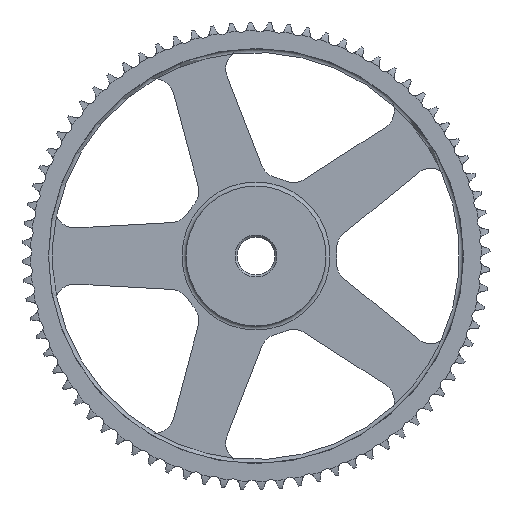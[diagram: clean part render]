
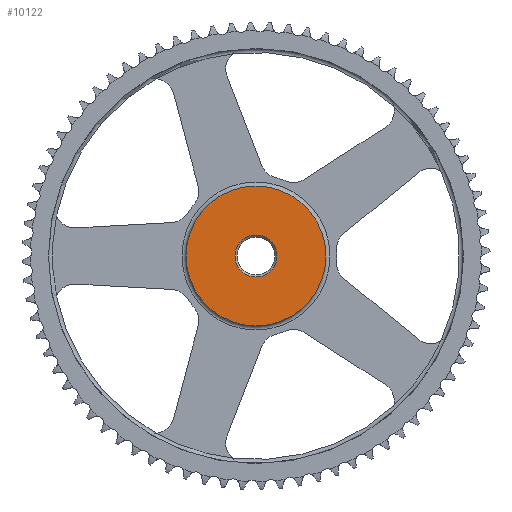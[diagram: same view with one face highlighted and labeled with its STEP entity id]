
A CAD part, left-side view. The second image highlights one B-rep face of the part: STEP entity #10122.
In plain terms, the highlighted planar face has unit normal (-1, 0, 0).
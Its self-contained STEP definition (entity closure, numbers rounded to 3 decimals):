
#36=FACE_BOUND('',#2319,.T.);
#1219=PLANE('',#11238);
#1757=FACE_OUTER_BOUND('',#2318,.T.);
#2318=EDGE_LOOP('',(#9231));
#2319=EDGE_LOOP('',(#9232));
#2902=CIRCLE('',#11237,10.5);
#2903=CIRCLE('',#11239,35.);
#4603=VERTEX_POINT('',#20054);
#4604=VERTEX_POINT('',#20057);
#6206=EDGE_CURVE('',#4603,#4603,#2902,.T.);
#6207=EDGE_CURVE('',#4604,#4604,#2903,.T.);
#9231=ORIENTED_EDGE('',*,*,#6207,.F.);
#9232=ORIENTED_EDGE('',*,*,#6206,.T.);
#10122=ADVANCED_FACE('',(#1757,#36),#1219,.T.);
#11237=AXIS2_PLACEMENT_3D('',#20055,#13856,#13857);
#11238=AXIS2_PLACEMENT_3D('',#20056,#13858,#13859);
#11239=AXIS2_PLACEMENT_3D('',#20058,#13860,#13861);
#13856=DIRECTION('center_axis',(1.,0.,0.));
#13857=DIRECTION('ref_axis',(0.,0.,-1.));
#13858=DIRECTION('center_axis',(-1.,0.,0.));
#13859=DIRECTION('ref_axis',(0.,0.,1.));
#13860=DIRECTION('center_axis',(1.,0.,0.));
#13861=DIRECTION('ref_axis',(0.,0.,-1.));
#20054=CARTESIAN_POINT('',(1.321,152.075,0.));
#20055=CARTESIAN_POINT('Origin',(1.321,141.575,0.));
#20056=CARTESIAN_POINT('Origin',(1.321,176.575,0.));
#20057=CARTESIAN_POINT('',(1.321,176.575,0.));
#20058=CARTESIAN_POINT('Origin',(1.321,141.575,0.));
